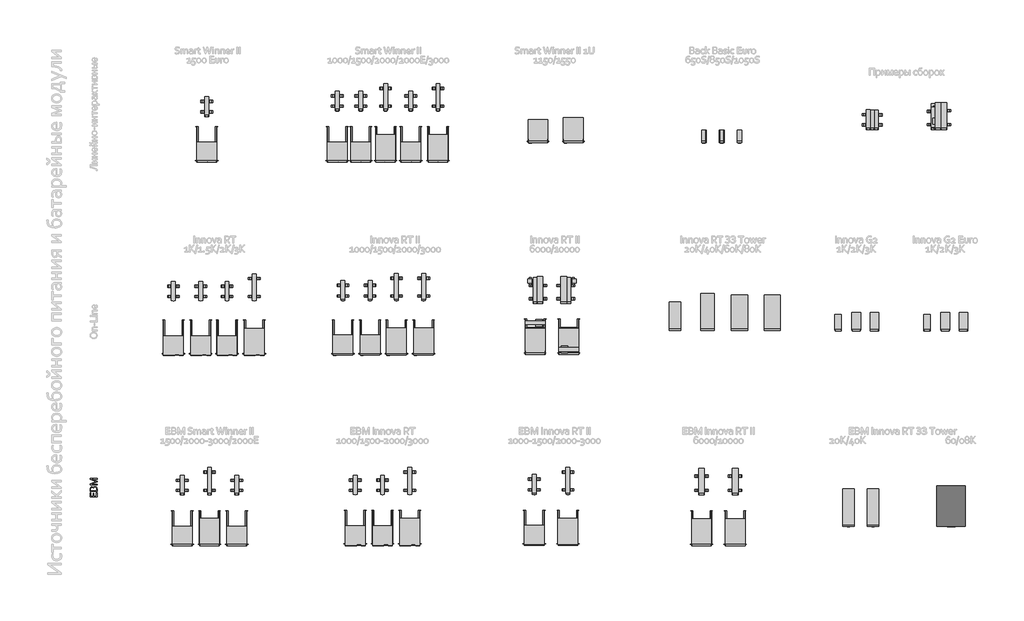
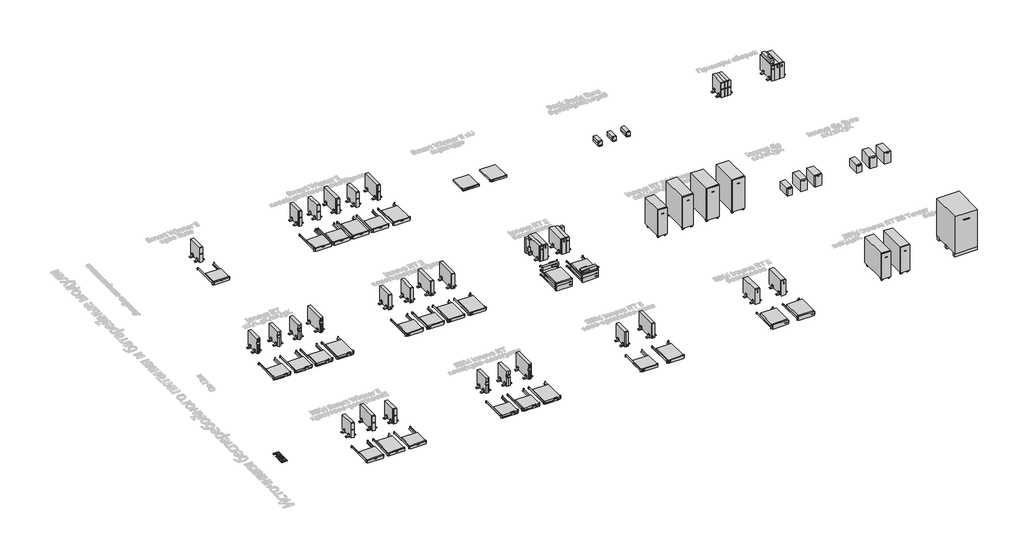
# One storey, part 1 of 14: 104 proxies.
"""IFC4 building model written with IfcOpenShell, lengths in millimetres."""

from ifc_helpers import new_model, si_unit, origin, origin_with_axes, place, context, project, spatial, polyline, outline, extrude, transform, mapped, element, save
from components import electrical_equipment_e0649b80, electrical_equipment_31c24b1d, electrical_equipment_5c134813, electrical_equipment_8a4f9bc7, electrical_equipment_ef5bf3b2, electrical_equipment_7b7a9afe, electrical_equipment_1216eed7, electrical_equipment_90de4895, electrical_equipment_7cab53b0, electrical_equipment_fa8cc59b, electrical_equipment_69b62ba1, electrical_equipment_9dc947d1, electrical_equipment_16744219, electrical_equipment_cfbb87c9, electrical_equipment_9298a4e4, electrical_equipment_7cbba243, electrical_equipment_558c85cb, electrical_equipment_400f7965, electrical_equipment_d4b9a717, electrical_equipment_90e6ebf0, electrical_equipment_517d518b, electrical_equipment_acadec03, electrical_equipment_45f5dc8f, electrical_equipment_fab1fcb4, electrical_equipment_f85adaec, electrical_equipment_f777224a, electrical_equipment_d9fb5ba6, electrical_equipment_9c128fde, electrical_equipment_19148581, electrical_equipment_a6e1776d, electrical_equipment_ea3c379c, electrical_equipment_cd2cad51, electrical_equipment_1a3260f8, electrical_equipment_5258313d, electrical_equipment_ac7b17f3, electrical_equipment_c6e77d47, electrical_equipment_1c29d455, electrical_equipment_fd047484, electrical_equipment_a63d0ca0, electrical_equipment_284e5c05, electrical_equipment_f061e295, electrical_equipment_f96a9f60, electrical_equipment_e6eb0e22, electrical_equipment_5d2fe02d, electrical_equipment_0e66a687, electrical_equipment_6785ab85, electrical_equipment_16f8b6a5, electrical_equipment_57e4d7b0

model = new_model("IFC4")

# Units and contexts
model_context = context("Model", 3, world=origin())
ifc_project = project(units=[si_unit("LENGTHUNIT", "METRE", prefix="MILLI")], contexts=[model_context])

# Site, building, storey
site = spatial("IfcSite", under=ifc_project)
building = spatial("IfcBuilding", under=site)
storey = spatial("IfcBuildingStorey", under=building, Name="Этаж 01", Elevation=0.0)

# Proxies
placement = place(None, origin())
element("IfcBuildingElementProxy", 1, Name="150 мм Corbel", ObjectType="150 мм Corbel", at=placement, inside=storey, context=model_context, shape_type="SweptSolid", body=[
    extrude(outline(polyline([(2510.3948077, -8927.0837924), (2510.3948077, -8850.1706353), (2527.1949512, -8850.1706353), (2527.1949512, -8946.6839599), (2375.9936594, -8946.6839599), (2375.9936594, -8854.3269208), (2392.7938029, -8854.3269208), (2392.7938029, -8927.0837924), (2440.3942096, -8927.0837924), (2440.3942096, -8862.3769896), (2457.1943532, -8862.3769896), (2457.1943532, -8927.0837924), (2510.3948077, -8927.0837924)])), origin_with_axes(), (0.0, 0.0, 1.0), 20.0),
    extrude(outline(polyline([(2447.8317732, -8749.3697741), (2451.8349324, -8736.8790424), (2458.8568674, -8727.472712), (2469.0288293, -8721.741413), (2482.4820692, -8719.8820222), (2493.7477905, -8721.39141), (2505.1885132, -8726.422703), (2515.4261007, -8735.6540319), (2523.0824161, -8749.8072778), (2526.2761934, -8764.2011508), (2527.1949512, -8783.188813), (2527.1949512, -8820.6828834), (2375.9936594, -8820.6828834), (2375.9936594, -8784.238822), (2376.1686609, -8775.1606194), (2376.6717902, -8767.6355552), (2377.5030473, -8761.2480006), (2378.6624322, -8755.6698279), (2383.8687267, -8743.2009714), (2391.7219188, -8733.6633899), (2402.0907574, -8727.6039631), (2414.7127402, -8725.48207), (2425.1909547, -8726.772706), (2434.4441588, -8730.9289915), (2442.0348487, -8738.3228047), (2447.8317732, -8749.3697741)]), holes=[polyline([(2440.3942096, -8773.9574842), (2439.8910803, -8764.923032), (2438.4254428, -8758.0323481), (2429.8284944, -8746.0447457), (2416.0252514, -8742.2822135), (2402.7032626, -8746.2197472), (2394.9813216, -8758.5573526), (2393.2969322, -8768.1824348), (2392.7938029, -8781.0887951), (2392.7938029, -8801.0827159), (2440.3942096, -8801.0827159), (2440.3942096, -8773.9574842)]), polyline([(2457.1943532, -8801.0827159), (2510.3948077, -8801.0827159), (2510.3948077, -8779.7762839), (2509.6510514, -8765.6886635), (2507.2885312, -8754.6635693), (2502.8916186, -8746.2197472), (2496.9415678, -8740.6415745), (2490.0290087, -8737.6009235), (2482.6133204, -8736.6821657), (2474.4101253, -8737.6665491), (2467.5413166, -8740.8603264), (2462.2256462, -8746.7010013), (2458.6818659, -8755.7135783), (2457.5443562, -8763.1511418), (2457.1943532, -8773.4762301), (2457.1943532, -8801.0827159)])]), origin_with_axes(), (0.0, 0.0, 1.0), 20.0),
    extrude(outline(polyline([(2527.1949512, -8603.637279), (2527.1949512, -8612.1248515), (2436.8941797, -8649.1376677), (2396.3375832, -8664.5377993), (2454.0880766, -8663.8815437), (2527.1949512, -8663.8815437), (2527.1949512, -8683.4817112), (2375.9936594, -8683.4817112), (2375.9936594, -8657.012735), (2461.5256402, -8621.5749322), (2496.9196926, -8608.1873179), (2461.5256402, -8594.2309486), (2375.9936594, -8558.7493955), (2375.9936594, -8532.2804193), (2527.1949512, -8532.2804193), (2527.1949512, -8551.8805868), (2454.0880766, -8551.8805868), (2396.3375832, -8550.3055733), (2436.8941797, -8566.6244627), (2527.1949512, -8603.637279)])), origin_with_axes(), (0.0, 0.0, 1.0), 20.0),
])
electrical_equipment_shape = electrical_equipment_e0649b80(model_context)
element("IfcBuildingElementProxy", 2, Name="IPPON_ИБП_Smart Winner II Euro_1500ВА : Smart Winner II Euro 1500 ВА", ObjectType="IPPON_ИБП_Smart Winner II Euro_1500ВА : Smart Winner II Euro 1500 ВА", at=placement, inside=storey, context=model_context, shape_type="MappedRepresentation", body=[
    mapped(electrical_equipment_shape, transform((4944.0994169, -556.6244001, 0.0), x_axis=(1.0, 0.0, 0.0), y_axis=(0.0, 1.0, 0.0), z_axis=(0.0, 0.0, 1.0))),
])
element("IfcBuildingElementProxy", 3, Name="IPPON_ИБП_Smart Winner II_1000_1500_2000_2000E_3000ВА : Smart Winner II 1500 ВА", ObjectType="IPPON_ИБП_Smart Winner II_1000_1500_2000_2000E_3000ВА : Smart Winner II 1500 ВА", at=placement, inside=storey, context=model_context, shape_type="MappedRepresentation", body=[
    mapped(electrical_equipment_shape, transform((8339.0343388, -431.8742501, 0.0), x_axis=(1.0, 0.0, 0.0), y_axis=(0.0, 1.0, 0.0), z_axis=(0.0, 0.0, 1.0))),
])
element("IfcBuildingElementProxy", 4, Name="IPPON_ИБП_Smart Winner II_1000_1500_2000_2000E_3000ВА : Smart Winner II 1000 ВА", ObjectType="IPPON_ИБП_Smart Winner II_1000_1500_2000_2000E_3000ВА : Smart Winner II 1000 ВА", at=placement, inside=storey, context=model_context, shape_type="MappedRepresentation", body=[
    mapped(electrical_equipment_shape, transform((7819.0343388, -431.8742501, 0.0), x_axis=(1.0, 0.0, 0.0), y_axis=(0.0, 1.0, 0.0), z_axis=(0.0, 0.0, 1.0))),
])
electrical_equipment_2_shape = electrical_equipment_31c24b1d(model_context)
element("IfcBuildingElementProxy", 5, Name="IPPON_ИБП_Smart Winner II_1000_1500_2000_2000E_3000ВА : Smart Winner II 2000 ВА", ObjectType="IPPON_ИБП_Smart Winner II_1000_1500_2000_2000E_3000ВА : Smart Winner II 2000 ВА", at=placement, inside=storey, context=model_context, shape_type="MappedRepresentation", body=[
    mapped(electrical_equipment_2_shape, transform((8884.0343388, -431.8742501, 0.0), x_axis=(1.0, 0.0, 0.0), y_axis=(0.0, 1.0, 0.0), z_axis=(0.0, 0.0, 1.0))),
])
element("IfcBuildingElementProxy", 6, Name="IPPON_ИБП_Smart Winner II_1000_1500_2000_2000E_3000ВА : Smart Winner II 2000 ВА (E)", ObjectType="IPPON_ИБП_Smart Winner II_1000_1500_2000_2000E_3000ВА : Smart Winner II 2000 ВА (E)", at=placement, inside=storey, context=model_context, shape_type="MappedRepresentation", body=[
    mapped(electrical_equipment_shape, transform((9439.0343388, -431.8742501, 0.0), x_axis=(1.0, 0.0, 0.0), y_axis=(0.0, 1.0, 0.0), z_axis=(0.0, 0.0, 1.0))),
])
element("IfcBuildingElementProxy", 7, Name="IPPON_ИБП_Smart Winner II_1000_1500_2000_2000E_3000ВА : Smart Winner II 3000 ВА", ObjectType="IPPON_ИБП_Smart Winner II_1000_1500_2000_2000E_3000ВА : Smart Winner II 3000 ВА", at=placement, inside=storey, context=model_context, shape_type="MappedRepresentation", body=[
    mapped(electrical_equipment_2_shape, transform((10039.0343388, -431.8742501, 0.0), x_axis=(1.0, 0.0, 0.0), y_axis=(0.0, 1.0, 0.0), z_axis=(0.0, 0.0, 1.0))),
])
electrical_equipment_3_shape = electrical_equipment_5c134813(model_context)
element("IfcBuildingElementProxy", 8, Name="Вл_Монтажный комплект : Вл_Монтажный комплект", ObjectType="Вл_Монтажный комплект : Вл_Монтажный комплект", at=placement, inside=storey, context=model_context, shape_type="MappedRepresentation", body=[
    mapped(electrical_equipment_3_shape, transform((4944.0994169, -1523.6244001, 0.0), x_axis=(1.0, 0.0, 0.0), y_axis=(0.0, 1.0, 0.0), z_axis=(0.0, 0.0, 1.0))),
])
element("IfcBuildingElementProxy", 9, Name="Вл_Монтажный комплект : Вл_Монтажный комплект", ObjectType="Вл_Монтажный комплект : Вл_Монтажный комплект", at=placement, inside=storey, context=model_context, shape_type="MappedRepresentation", body=[
    mapped(electrical_equipment_3_shape, transform((8339.0343388, -1523.8742501, 0.0), x_axis=(1.0, 0.0, 0.0), y_axis=(0.0, 1.0, 0.0), z_axis=(0.0, 0.0, 1.0))),
])
element("IfcBuildingElementProxy", 10, Name="Вл_Монтажный комплект : Вл_Монтажный комплект", ObjectType="Вл_Монтажный комплект : Вл_Монтажный комплект", at=placement, inside=storey, context=model_context, shape_type="MappedRepresentation", body=[
    mapped(electrical_equipment_3_shape, transform((7819.0343388, -1523.8742501, 0.0), x_axis=(1.0, 0.0, 0.0), y_axis=(0.0, 1.0, 0.0), z_axis=(0.0, 0.0, 1.0))),
])
element("IfcBuildingElementProxy", 11, Name="Вл_Монтажный комплект : Вл_Монтажный комплект", ObjectType="Вл_Монтажный комплект : Вл_Монтажный комплект", at=placement, inside=storey, context=model_context, shape_type="MappedRepresentation", body=[
    mapped(electrical_equipment_3_shape, transform((8884.0343388, -1523.8742501, 0.0), x_axis=(1.0, 0.0, 0.0), y_axis=(0.0, 1.0, 0.0), z_axis=(0.0, 0.0, 1.0))),
])
element("IfcBuildingElementProxy", 12, Name="Вл_Монтажный комплект : Вл_Монтажный комплект", ObjectType="Вл_Монтажный комплект : Вл_Монтажный комплект", at=placement, inside=storey, context=model_context, shape_type="MappedRepresentation", body=[
    mapped(electrical_equipment_3_shape, transform((9439.0343388, -1523.8742501, 0.0), x_axis=(1.0, 0.0, 0.0), y_axis=(0.0, 1.0, 0.0), z_axis=(0.0, 0.0, 1.0))),
])
element("IfcBuildingElementProxy", 13, Name="Вл_Монтажный комплект : Вл_Монтажный комплект", ObjectType="Вл_Монтажный комплект : Вл_Монтажный комплект", at=placement, inside=storey, context=model_context, shape_type="MappedRepresentation", body=[
    mapped(electrical_equipment_3_shape, transform((10039.0343388, -1523.8742501, 0.0), x_axis=(1.0, 0.0, 0.0), y_axis=(0.0, 1.0, 0.0), z_axis=(0.0, 0.0, 1.0))),
])
element("IfcBuildingElementProxy", 14, Name="Вл_Монтажный комплект : Вл_Монтажный комплект", ObjectType="Вл_Монтажный комплект : Вл_Монтажный комплект", at=placement, inside=storey, context=model_context, shape_type="MappedRepresentation", body=[
    mapped(electrical_equipment_3_shape, transform((5004.9005059, -9990.0779342, 0.0), x_axis=(1.0, 0.0, 0.0), y_axis=(0.0, 1.0, 0.0), z_axis=(0.0, 0.0, 1.0))),
])
element("IfcBuildingElementProxy", 15, Name="Вл_Монтажный комплект : Вл_Монтажный комплект", ObjectType="Вл_Монтажный комплект : Вл_Монтажный комплект", at=placement, inside=storey, context=model_context, shape_type="MappedRepresentation", body=[
    mapped(electrical_equipment_3_shape, transform((5604.9005059, -9990.0779342, 0.0), x_axis=(1.0, 0.0, 0.0), y_axis=(0.0, 1.0, 0.0), z_axis=(0.0, 0.0, 1.0))),
])
element("IfcBuildingElementProxy", 16, Name="Вл_Монтажный комплект : Вл_Монтажный комплект", ObjectType="Вл_Монтажный комплект : Вл_Монтажный комплект", at=placement, inside=storey, context=model_context, shape_type="MappedRepresentation", body=[
    mapped(electrical_equipment_3_shape, transform((4404.9005059, -9990.0779342, 0.0), x_axis=(1.0, 0.0, 0.0), y_axis=(0.0, 1.0, 0.0), z_axis=(0.0, 0.0, 1.0))),
])
element("IfcBuildingElementProxy", 17, Name="Вл_Монтажный комплект : Вл_Монтажный комплект", ObjectType="Вл_Монтажный комплект : Вл_Монтажный комплект", at=placement, inside=storey, context=model_context, shape_type="MappedRepresentation", body=[
    mapped(electrical_equipment_3_shape, transform((4210.1294737, -5785.6427716, 0.0), x_axis=(1.0, 0.0, 0.0), y_axis=(0.0, 1.0, 0.0), z_axis=(0.0, 0.0, 1.0))),
])
element("IfcBuildingElementProxy", 18, Name="Вл_Монтажный комплект : Вл_Монтажный комплект", ObjectType="Вл_Монтажный комплект : Вл_Монтажный комплект", at=placement, inside=storey, context=model_context, shape_type="MappedRepresentation", body=[
    mapped(electrical_equipment_3_shape, transform((4810.1294737, -5785.6427716, 0.0), x_axis=(1.0, 0.0, 0.0), y_axis=(0.0, 1.0, 0.0), z_axis=(0.0, 0.0, 1.0))),
])
element("IfcBuildingElementProxy", 19, Name="Вл_Монтажный комплект : Вл_Монтажный комплект", ObjectType="Вл_Монтажный комплект : Вл_Монтажный комплект", at=placement, inside=storey, context=model_context, shape_type="MappedRepresentation", body=[
    mapped(electrical_equipment_3_shape, transform((5390.1294737, -5785.6427716, 0.0), x_axis=(1.0, 0.0, 0.0), y_axis=(0.0, 1.0, 0.0), z_axis=(0.0, 0.0, 1.0))),
])
element("IfcBuildingElementProxy", 20, Name="Вл_Монтажный комплект : Вл_Монтажный комплект", ObjectType="Вл_Монтажный комплект : Вл_Монтажный комплект", at=placement, inside=storey, context=model_context, shape_type="MappedRepresentation", body=[
    mapped(electrical_equipment_3_shape, transform((5990.1294737, -5785.6427716, 0.0), x_axis=(1.0, 0.0, 0.0), y_axis=(0.0, 1.0, 0.0), z_axis=(0.0, 0.0, 1.0))),
])
element("IfcBuildingElementProxy", 21, Name="Вл_Монтажный комплект : Вл_Монтажный комплект", ObjectType="Вл_Монтажный комплект : Вл_Монтажный комплект", at=placement, inside=storey, context=model_context, shape_type="MappedRepresentation", body=[
    mapped(electrical_equipment_3_shape, transform((8216.3272846, -9980.0779342, 0.0), x_axis=(1.0, 0.0, 0.0), y_axis=(0.0, 1.0, 0.0), z_axis=(0.0, 0.0, 1.0))),
])
element("IfcBuildingElementProxy", 22, Name="Вл_Монтажный комплект : Вл_Монтажный комплект", ObjectType="Вл_Монтажный комплект : Вл_Монтажный комплект", at=placement, inside=storey, context=model_context, shape_type="MappedRepresentation", body=[
    mapped(electrical_equipment_3_shape, transform((8816.3272846, -9980.0779342, 0.0), x_axis=(1.0, 0.0, 0.0), y_axis=(0.0, 1.0, 0.0), z_axis=(0.0, 0.0, 1.0))),
])
element("IfcBuildingElementProxy", 23, Name="Вл_Монтажный комплект : Вл_Монтажный комплект", ObjectType="Вл_Монтажный комплект : Вл_Монтажный комплект", at=placement, inside=storey, context=model_context, shape_type="MappedRepresentation", body=[
    mapped(electrical_equipment_3_shape, transform((9416.3272846, -9980.0779342, 0.0), x_axis=(1.0, 0.0, 0.0), y_axis=(0.0, 1.0, 0.0), z_axis=(0.0, 0.0, 1.0))),
])
element("IfcBuildingElementProxy", 24, Name="Вл_Монтажный комплект : Вл_Монтажный комплект", ObjectType="Вл_Монтажный комплект : Вл_Монтажный комплект", at=placement, inside=storey, context=model_context, shape_type="MappedRepresentation", body=[
    mapped(electrical_equipment_3_shape, transform((7943.4672149, -5785.6427716, 0.0), x_axis=(1.0, 0.0, 0.0), y_axis=(0.0, 1.0, 0.0), z_axis=(0.0, 0.0, 1.0))),
])
element("IfcBuildingElementProxy", 25, Name="Вл_Монтажный комплект : Вл_Монтажный комплект", ObjectType="Вл_Монтажный комплект : Вл_Монтажный комплект", at=placement, inside=storey, context=model_context, shape_type="MappedRepresentation", body=[
    mapped(electrical_equipment_3_shape, transform((8543.4672149, -5785.6427716, 0.0), x_axis=(1.0, 0.0, 0.0), y_axis=(0.0, 1.0, 0.0), z_axis=(0.0, 0.0, 1.0))),
])
element("IfcBuildingElementProxy", 26, Name="Вл_Монтажный комплект : Вл_Монтажный комплект", ObjectType="Вл_Монтажный комплект : Вл_Монтажный комплект", at=placement, inside=storey, context=model_context, shape_type="MappedRepresentation", body=[
    mapped(electrical_equipment_3_shape, transform((9123.4672149, -5785.6427716, 0.0), x_axis=(1.0, 0.0, 0.0), y_axis=(0.0, 1.0, 0.0), z_axis=(0.0, 0.0, 1.0))),
])
element("IfcBuildingElementProxy", 27, Name="Вл_Монтажный комплект : Вл_Монтажный комплект", ObjectType="Вл_Монтажный комплект : Вл_Монтажный комплект", at=placement, inside=storey, context=model_context, shape_type="MappedRepresentation", body=[
    mapped(electrical_equipment_3_shape, transform((9723.4672149, -5785.6427716, 0.0), x_axis=(1.0, 0.0, 0.0), y_axis=(0.0, 1.0, 0.0), z_axis=(0.0, 0.0, 1.0))),
])
element("IfcBuildingElementProxy", 28, Name="Вл_Монтажный комплект : Вл_Монтажный комплект", ObjectType="Вл_Монтажный комплект : Вл_Монтажный комплект", at=placement, inside=storey, context=model_context, shape_type="MappedRepresentation", body=[
    mapped(electrical_equipment_3_shape, transform((12161.3957799, -9980.0779342, 0.0), x_axis=(1.0, 0.0, 0.0), y_axis=(0.0, 1.0, 0.0), z_axis=(0.0, 0.0, 1.0))),
])
element("IfcBuildingElementProxy", 29, Name="Вл_Монтажный комплект : Вл_Монтажный комплект", ObjectType="Вл_Монтажный комплект : Вл_Монтажный комплект", at=placement, inside=storey, context=model_context, shape_type="MappedRepresentation", body=[
    mapped(electrical_equipment_3_shape, transform((12901.3957799, -9980.0779342, 0.0), x_axis=(1.0, 0.0, 0.0), y_axis=(0.0, 1.0, 0.0), z_axis=(0.0, 0.0, 1.0))),
])
electrical_equipment_4_shape = electrical_equipment_8a4f9bc7(model_context)
element("IfcBuildingElementProxy", 30, Name="IPPON_EBM_Smart Winner II_1500_2000_2000E_3000ВА : EBM Smart Winner II 1500 ВА", ObjectType="IPPON_EBM_Smart Winner II_1500_2000_2000E_3000ВА : EBM Smart Winner II 1500 ВА", at=placement, inside=storey, context=model_context, shape_type="MappedRepresentation", body=[
    mapped(electrical_equipment_4_shape, transform((4404.9005059, -8903.0779342, 0.0), x_axis=(1.0, 0.0, 0.0), y_axis=(0.0, 1.0, 0.0), z_axis=(0.0, 0.0, 1.0))),
])
electrical_equipment_5_shape = electrical_equipment_ef5bf3b2(model_context)
element("IfcBuildingElementProxy", 31, Name="IPPON_EBM_Smart Winner II_1500_2000_2000E_3000ВА : EBM Smart Winner II 2000/3000 ВА", ObjectType="IPPON_EBM_Smart Winner II_1500_2000_2000E_3000ВА : EBM Smart Winner II 2000/3000 ВА", at=placement, inside=storey, context=model_context, shape_type="MappedRepresentation", body=[
    mapped(electrical_equipment_5_shape, transform((5004.9005059, -8903.0779342, 0.0), x_axis=(1.0, 0.0, 0.0), y_axis=(0.0, 1.0, 0.0), z_axis=(0.0, 0.0, 1.0))),
])
element("IfcBuildingElementProxy", 32, Name="IPPON_EBM_Smart Winner II_1500_2000_2000E_3000ВА : EBM Smart Winner II 2000 ВА (E)", ObjectType="IPPON_EBM_Smart Winner II_1500_2000_2000E_3000ВА : EBM Smart Winner II 2000 ВА (E)", at=placement, inside=storey, context=model_context, shape_type="MappedRepresentation", body=[
    mapped(electrical_equipment_4_shape, transform((5604.9005059, -8903.0779342, 0.0), x_axis=(1.0, 0.0, 0.0), y_axis=(0.0, 1.0, 0.0), z_axis=(0.0, 0.0, 1.0))),
])
electrical_equipment_6_shape = electrical_equipment_7b7a9afe(model_context)
element("IfcBuildingElementProxy", 33, Name="IPPON_ИБП_Smart Winner II_1000_1500_2000_2000E_3000ВА : Smart Winner II 1500 ВА", ObjectType="IPPON_ИБП_Smart Winner II_1000_1500_2000_2000E_3000ВА : Smart Winner II 1500 ВА", at=placement, inside=storey, context=model_context, shape_type="MappedRepresentation", body=[
    mapped(electrical_equipment_6_shape, transform((8339.0343388, -1556.8742501, 0.0), x_axis=(1.0, 0.0, 0.0), y_axis=(0.0, 1.0, 0.0), z_axis=(0.0, 0.0, 1.0))),
])
element("IfcBuildingElementProxy", 34, Name="IPPON_ИБП_Smart Winner II_1000_1500_2000_2000E_3000ВА : Smart Winner II 1000 ВА", ObjectType="IPPON_ИБП_Smart Winner II_1000_1500_2000_2000E_3000ВА : Smart Winner II 1000 ВА", at=placement, inside=storey, context=model_context, shape_type="MappedRepresentation", body=[
    mapped(electrical_equipment_6_shape, transform((7819.0343388, -1556.8742501, 0.0), x_axis=(1.0, 0.0, 0.0), y_axis=(0.0, 1.0, 0.0), z_axis=(0.0, 0.0, 1.0))),
])
electrical_equipment_7_shape = electrical_equipment_1216eed7(model_context)
element("IfcBuildingElementProxy", 35, Name="IPPON_ИБП_Smart Winner II_1000_1500_2000_2000E_3000ВА : Smart Winner II 2000 ВА", ObjectType="IPPON_ИБП_Smart Winner II_1000_1500_2000_2000E_3000ВА : Smart Winner II 2000 ВА", at=placement, inside=storey, context=model_context, shape_type="MappedRepresentation", body=[
    mapped(electrical_equipment_7_shape, transform((8884.0343388, -1556.8742501, 0.0), x_axis=(1.0, 0.0, 0.0), y_axis=(0.0, 1.0, 0.0), z_axis=(0.0, 0.0, 1.0))),
])
element("IfcBuildingElementProxy", 36, Name="IPPON_ИБП_Smart Winner II_1000_1500_2000_2000E_3000ВА : Smart Winner II 2000 ВА (E)", ObjectType="IPPON_ИБП_Smart Winner II_1000_1500_2000_2000E_3000ВА : Smart Winner II 2000 ВА (E)", at=placement, inside=storey, context=model_context, shape_type="MappedRepresentation", body=[
    mapped(electrical_equipment_6_shape, transform((9439.0343388, -1556.8742501, 0.0), x_axis=(1.0, 0.0, 0.0), y_axis=(0.0, 1.0, 0.0), z_axis=(0.0, 0.0, 1.0))),
])
element("IfcBuildingElementProxy", 37, Name="IPPON_ИБП_Smart Winner II_1000_1500_2000_2000E_3000ВА : Smart Winner II 3000 ВА", ObjectType="IPPON_ИБП_Smart Winner II_1000_1500_2000_2000E_3000ВА : Smart Winner II 3000 ВА", at=placement, inside=storey, context=model_context, shape_type="MappedRepresentation", body=[
    mapped(electrical_equipment_7_shape, transform((10039.0343388, -1556.8742501, 0.0), x_axis=(1.0, 0.0, 0.0), y_axis=(0.0, 1.0, 0.0), z_axis=(0.0, 0.0, 1.0))),
])
electrical_equipment_8_shape = electrical_equipment_90de4895(model_context)
element("IfcBuildingElementProxy", 38, Name="IPPON_EBM_Smart Winner II_1500_2000_2000E_3000ВА : EBM Smart Winner II 2000/3000 ВА", ObjectType="IPPON_EBM_Smart Winner II_1500_2000_2000E_3000ВА : EBM Smart Winner II 2000/3000 ВА", at=placement, inside=storey, context=model_context, shape_type="MappedRepresentation", body=[
    mapped(electrical_equipment_8_shape, transform((5004.9005059, -10023.0779342, 0.0), x_axis=(1.0, 0.0, 0.0), y_axis=(0.0, 1.0, 0.0), z_axis=(0.0, 0.0, 1.0))),
])
electrical_equipment_9_shape = electrical_equipment_7cab53b0(model_context)
element("IfcBuildingElementProxy", 39, Name="IPPON_EBM_Smart Winner II_1500_2000_2000E_3000ВА : EBM Smart Winner II 2000 ВА (E)", ObjectType="IPPON_EBM_Smart Winner II_1500_2000_2000E_3000ВА : EBM Smart Winner II 2000 ВА (E)", at=placement, inside=storey, context=model_context, shape_type="MappedRepresentation", body=[
    mapped(electrical_equipment_9_shape, transform((5604.9005059, -10023.0779342, 0.0), x_axis=(1.0, 0.0, 0.0), y_axis=(0.0, 1.0, 0.0), z_axis=(0.0, 0.0, 1.0))),
])
element("IfcBuildingElementProxy", 40, Name="IPPON_EBM_Smart Winner II_1500_2000_2000E_3000ВА : EBM Smart Winner II 1500 ВА", ObjectType="IPPON_EBM_Smart Winner II_1500_2000_2000E_3000ВА : EBM Smart Winner II 1500 ВА", at=placement, inside=storey, context=model_context, shape_type="MappedRepresentation", body=[
    mapped(electrical_equipment_9_shape, transform((4404.9005059, -10023.0779342, 0.0), x_axis=(1.0, 0.0, 0.0), y_axis=(0.0, 1.0, 0.0), z_axis=(0.0, 0.0, 1.0))),
])
electrical_equipment_10_shape = electrical_equipment_fa8cc59b(model_context)
element("IfcBuildingElementProxy", 41, Name="IPPON_ИБП_Smart Winner II 1U_1150_1550ВА : Smart Winner II 1150 ВА (1U)", ObjectType="IPPON_ИБП_Smart Winner II 1U_1150_1550ВА : Smart Winner II 1150 ВА (1U)", at=placement, inside=storey, context=model_context, shape_type="MappedRepresentation", body=[
    mapped(electrical_equipment_10_shape, transform((12243.1274779, -1136.8742501, 0.0), x_axis=(1.0, 0.0, 0.0), y_axis=(0.0, 1.0, 0.0), z_axis=(0.0, 0.0, 1.0))),
])
electrical_equipment_11_shape = electrical_equipment_69b62ba1(model_context)
element("IfcBuildingElementProxy", 42, Name="Вл_Монтажный комплект_43мм : Вл_Монтажный комплект_43мм", ObjectType="Вл_Монтажный комплект_43мм : Вл_Монтажный комплект_43мм", at=placement, inside=storey, context=model_context, shape_type="MappedRepresentation", body=[
    mapped(electrical_equipment_11_shape, transform((15846.7111919, -9990.0779342, 0.0), x_axis=(1.0, 0.0, 0.0), y_axis=(0.0, 1.0, 0.0), z_axis=(0.0, 0.0, 1.0))),
])
element("IfcBuildingElementProxy", 43, Name="Вл_Монтажный комплект_43мм : Вл_Монтажный комплект_43мм", ObjectType="Вл_Монтажный комплект_43мм : Вл_Монтажный комплект_43мм", at=placement, inside=storey, context=model_context, shape_type="MappedRepresentation", body=[
    mapped(electrical_equipment_11_shape, transform((16586.7111919, -9990.0779342, 0.0), x_axis=(1.0, 0.0, 0.0), y_axis=(0.0, 1.0, 0.0), z_axis=(0.0, 0.0, 1.0))),
])
electrical_equipment_12_shape = electrical_equipment_9dc947d1(model_context)
element("IfcBuildingElementProxy", 44, Name="IPPON_ИБП_Innova RT II_60000_10000ВА_Вертикальный : Innova TR II 6000 ВА", ObjectType="IPPON_ИБП_Innova RT II_60000_10000ВА_Вертикальный : Innova TR II 6000 ВА", at=placement, inside=storey, context=model_context, shape_type="MappedRepresentation", body=[
    mapped(electrical_equipment_12_shape, transform((12179.2943129, -4680.0691348, 0.0), x_axis=(1.0, 0.0, 0.0), y_axis=(0.0, 1.0, 0.0), z_axis=(0.0, 0.0, 1.0))),
])
element("IfcBuildingElementProxy", 45, Name="IPPON_ИБП_Smart Winner II Euro_1500ВА : Smart Winner II Euro 1500 ВА", ObjectType="IPPON_ИБП_Smart Winner II Euro_1500ВА : Smart Winner II Euro 1500 ВА", at=placement, inside=storey, context=model_context, shape_type="MappedRepresentation", body=[
    mapped(electrical_equipment_6_shape, transform((4944.0994169, -1556.6244001, 0.0), x_axis=(1.0, 0.0, 0.0), y_axis=(0.0, 1.0, 0.0), z_axis=(0.0, 0.0, 1.0))),
])
electrical_equipment_13_shape = electrical_equipment_16744219(model_context)
element("IfcBuildingElementProxy", 46, Name="IPPON_ИБП_Innova RT II_60000_10000ВА_Горизонтальный : Innova RT II 6000 ВА", ObjectType="IPPON_ИБП_Innova RT II_60000_10000ВА_Горизонтальный : Innova RT II 6000 ВА", at=placement, inside=storey, context=model_context, shape_type="MappedRepresentation", body=[
    mapped(electrical_equipment_13_shape, transform((12179.2943129, -5805.2134969, 0.0), x_axis=(1.0, 0.0, 0.0), y_axis=(0.0, 1.0, 0.0), z_axis=(0.0, 0.0, 1.0))),
])
electrical_equipment_14_shape = electrical_equipment_cfbb87c9(model_context)
element("IfcBuildingElementProxy", 47, Name="Вл_Монтажный комплект_43мм : Вл_Монтажный комплект_43мм", ObjectType="Вл_Монтажный комплект_43мм : Вл_Монтажный комплект_43мм", at=placement, inside=storey, context=model_context, shape_type="MappedRepresentation", body=[
    mapped(electrical_equipment_14_shape, transform((12179.2943129, -5772.2134969, 0.0), x_axis=(1.0, 0.0, 0.0), y_axis=(0.0, 1.0, 0.0), z_axis=(0.0, 0.0, 1.0))),
])
element("IfcBuildingElementProxy", 48, Name="Вл_Монтажный комплект_43мм : Вл_Монтажный комплект_43мм", ObjectType="Вл_Монтажный комплект_43мм : Вл_Монтажный комплект_43мм", at=placement, inside=storey, context=model_context, shape_type="MappedRepresentation", body=[
    mapped(electrical_equipment_14_shape, transform((12179.2943129, -5772.2134969, -129.5), x_axis=(1.0, 0.0, 0.0), y_axis=(0.0, 1.0, 0.0), z_axis=(0.0, 0.0, 1.0))),
])
element("IfcBuildingElementProxy", 49, Name="Вл_Монтажный комплект_43мм : Вл_Монтажный комплект_43мм", ObjectType="Вл_Монтажный комплект_43мм : Вл_Монтажный комплект_43мм", at=placement, inside=storey, context=model_context, shape_type="MappedRepresentation", body=[
    mapped(electrical_equipment_14_shape, transform((12919.2943129, -5772.2134969, 0.0), x_axis=(1.0, 0.0, 0.0), y_axis=(0.0, 1.0, 0.0), z_axis=(0.0, 0.0, 1.0))),
])
element("IfcBuildingElementProxy", 50, Name="Вл_Монтажный комплект_43мм : Вл_Монтажный комплект_43мм", ObjectType="Вл_Монтажный комплект_43мм : Вл_Монтажный комплект_43мм", at=placement, inside=storey, context=model_context, shape_type="MappedRepresentation", body=[
    mapped(electrical_equipment_14_shape, transform((12919.2943129, -5772.2134969, -129.5), x_axis=(1.0, 0.0, 0.0), y_axis=(0.0, 1.0, 0.0), z_axis=(0.0, 0.0, 1.0))),
])
electrical_equipment_15_shape = electrical_equipment_9298a4e4(model_context)
element("IfcBuildingElementProxy", 51, Name="IPPON_EBM_Innova RT II_6000_10000ВА : Innova RT II 6000 ВА", ObjectType="IPPON_EBM_Innova RT II_6000_10000ВА : Innova RT II 6000 ВА", at=placement, inside=storey, context=model_context, shape_type="MappedRepresentation", body=[
    mapped(electrical_equipment_15_shape, transform((15846.7111919, -8903.0779342, 0.0), x_axis=(1.0, 0.0, 0.0), y_axis=(0.0, 1.0, 0.0), z_axis=(0.0, 0.0, 1.0))),
])
element("IfcBuildingElementProxy", 52, Name="IPPON_EBM_Innova RT II_6000_10000ВА : Innova RT II 6000 ВА", ObjectType="IPPON_EBM_Innova RT II_6000_10000ВА : Innova RT II 6000 ВА", at=placement, inside=storey, context=model_context, shape_type="MappedRepresentation", body=[
    mapped(electrical_equipment_15_shape, transform((21185.660897, -842.0417113, 0.0), x_axis=(1.0, 0.0, 0.0), y_axis=(0.0, 1.0, 0.0), z_axis=(0.0, 0.0, 1.0))),
])
element("IfcBuildingElementProxy", 53, Name="IPPON_EBM_Innova RT II_6000_10000ВА : Innova RT II 10000 ВА", ObjectType="IPPON_EBM_Innova RT II_6000_10000ВА : Innova RT II 10000 ВА", at=placement, inside=storey, context=model_context, shape_type="MappedRepresentation", body=[
    mapped(electrical_equipment_15_shape, transform((16586.7111919, -8903.0779342, 0.0), x_axis=(1.0, 0.0, 0.0), y_axis=(0.0, 1.0, 0.0), z_axis=(0.0, 0.0, 1.0))),
])
electrical_equipment_16_shape = electrical_equipment_7cbba243(model_context)
element("IfcBuildingElementProxy", 54, Name="IPPON_EBM_Innova RT II_6000_10000ВА : Innova RT II 6000 ВА", ObjectType="IPPON_EBM_Innova RT II_6000_10000ВА : Innova RT II 6000 ВА", at=placement, inside=storey, context=model_context, shape_type="MappedRepresentation", body=[
    mapped(electrical_equipment_16_shape, transform((15846.7111919, -10023.0779342, 0.0), x_axis=(1.0, 0.0, 0.0), y_axis=(0.0, 1.0, 0.0), z_axis=(0.0, 0.0, 1.0))),
])
element("IfcBuildingElementProxy", 55, Name="IPPON_EBM_Innova RT II_6000_10000ВА : Innova RT II 10000 ВА", ObjectType="IPPON_EBM_Innova RT II_6000_10000ВА : Innova RT II 10000 ВА", at=placement, inside=storey, context=model_context, shape_type="MappedRepresentation", body=[
    mapped(electrical_equipment_16_shape, transform((16586.7111919, -10023.0779342, 0.0), x_axis=(1.0, 0.0, 0.0), y_axis=(0.0, 1.0, 0.0), z_axis=(0.0, 0.0, 1.0))),
])
electrical_equipment_17_shape = electrical_equipment_558c85cb(model_context)
element("IfcBuildingElementProxy", 56, Name="IPPON_ИБП_Innova RT II_60000_10000ВА_Вертикальный : Innova TR II 10000 ВА", ObjectType="IPPON_ИБП_Innova RT II_60000_10000ВА_Вертикальный : Innova TR II 10000 ВА", at=placement, inside=storey, context=model_context, shape_type="MappedRepresentation", body=[
    mapped(electrical_equipment_17_shape, transform((12919.2943129, -4680.0691348, 0.0), x_axis=(1.0, 0.0, 0.0), y_axis=(0.0, 1.0, 0.0), z_axis=(0.0, 0.0, 1.0))),
])
electrical_equipment_18_shape = electrical_equipment_400f7965(model_context)
element("IfcBuildingElementProxy", 57, Name="IPPON_ИБП_Innova RT II_60000_10000ВА_Горизонтальный : Innova RT II 10000 ВА", ObjectType="IPPON_ИБП_Innova RT II_60000_10000ВА_Горизонтальный : Innova RT II 10000 ВА", at=placement, inside=storey, context=model_context, shape_type="MappedRepresentation", body=[
    mapped(electrical_equipment_18_shape, transform((12919.2943129, -5805.2134969, 0.0), x_axis=(1.0, 0.0, 0.0), y_axis=(0.0, 1.0, 0.0), z_axis=(0.0, 0.0, 1.0))),
])
electrical_equipment_19_shape = electrical_equipment_d4b9a717(model_context)
element("IfcBuildingElementProxy", 58, Name="IPPON_ИБП_Innova RT 33 Tower_20000_40000_60000_80000ВА : Innova RT 33 Tower 20000 ВА", ObjectType="IPPON_ИБП_Innova RT 33 Tower_20000_40000_60000_80000ВА : Innova RT 33 Tower 20000 ВА", at=placement, inside=storey, context=model_context, shape_type="MappedRepresentation", body=[
    mapped(electrical_equipment_19_shape, transform((15261.1545518, -5278.4405616, 0.0), x_axis=(1.0, 0.0, 0.0), y_axis=(0.0, 1.0, 0.0), z_axis=(0.0, 0.0, 1.0))),
])
electrical_equipment_20_shape = electrical_equipment_90e6ebf0(model_context)
element("IfcBuildingElementProxy", 59, Name="IPPON_ИБП_Innova RT 33 Tower_20000_40000_60000_80000ВА : Innova RT 33 Tower 40000 ВА", ObjectType="IPPON_ИБП_Innova RT 33 Tower_20000_40000_60000_80000ВА : Innova RT 33 Tower 40000 ВА", at=placement, inside=storey, context=model_context, shape_type="MappedRepresentation", body=[
    mapped(electrical_equipment_20_shape, transform((15978.8018823, -5278.4405616, 0.0), x_axis=(1.0, 0.0, 0.0), y_axis=(0.0, 1.0, 0.0), z_axis=(0.0, 0.0, 1.0))),
])
electrical_equipment_21_shape = electrical_equipment_517d518b(model_context)
element("IfcBuildingElementProxy", 60, Name="IPPON_ИБП_Innova RT 33 Tower_20000_40000_60000_80000ВА : Innova RT 33 Tower 60000 ВА", ObjectType="IPPON_ИБП_Innova RT 33 Tower_20000_40000_60000_80000ВА : Innova RT 33 Tower 60000 ВА", at=placement, inside=storey, context=model_context, shape_type="MappedRepresentation", body=[
    mapped(electrical_equipment_21_shape, transform((16682.8902636, -5278.4405616, 0.0), x_axis=(1.0, 0.0, 0.0), y_axis=(0.0, 1.0, 0.0), z_axis=(0.0, 0.0, 1.0))),
])
element("IfcBuildingElementProxy", 61, Name="IPPON_ИБП_Innova RT 33 Tower_20000_40000_60000_80000ВА : Innova RT 33 Tower 80000 ВА", ObjectType="IPPON_ИБП_Innova RT 33 Tower_20000_40000_60000_80000ВА : Innova RT 33 Tower 80000 ВА", at=placement, inside=storey, context=model_context, shape_type="MappedRepresentation", body=[
    mapped(electrical_equipment_21_shape, transform((17403.9823827, -5278.4405616, 0.0), x_axis=(1.0, 0.0, 0.0), y_axis=(0.0, 1.0, 0.0), z_axis=(0.0, 0.0, 1.0))),
])
electrical_equipment_22_shape = electrical_equipment_acadec03(model_context)
element("IfcBuildingElementProxy", 62, Name="IPPON_EBM_Innova RT 33 Tower_20000_40000ВА : EBM Innova RT 33 Tower 20000 ВА", ObjectType="IPPON_EBM_Innova RT 33 Tower_20000_40000ВА : EBM Innova RT 33 Tower 20000 ВА", at=placement, inside=storey, context=model_context, shape_type="MappedRepresentation", body=[
    mapped(electrical_equipment_22_shape, transform((19084.7554343, -9598.1231458, 0.0), x_axis=(1.0, 0.0, 0.0), y_axis=(0.0, 1.0, 0.0), z_axis=(0.0, 0.0, 1.0))),
])
element("IfcBuildingElementProxy", 63, Name="IPPON_EBM_Innova RT 33 Tower_20000_40000ВА : EBM Innova RT 33 Tower 40000 ВА", ObjectType="IPPON_EBM_Innova RT 33 Tower_20000_40000ВА : EBM Innova RT 33 Tower 40000 ВА", at=placement, inside=storey, context=model_context, shape_type="MappedRepresentation", body=[
    mapped(electrical_equipment_22_shape, transform((19623.1277397, -9598.1231458, 0.0), x_axis=(1.0, 0.0, 0.0), y_axis=(0.0, 1.0, 0.0), z_axis=(0.0, 0.0, 1.0))),
])
electrical_equipment_23_shape = electrical_equipment_45f5dc8f(model_context)
element("IfcBuildingElementProxy", 64, Name="IPPON_EBM_Innova RT 33 Tower_60000-80000ВА : EBM Innova RT 33 Tower 60000/80000 ВА", ObjectType="IPPON_EBM_Innova RT 33 Tower_60000-80000ВА : EBM Innova RT 33 Tower 60000/80000 ВА", at=placement, inside=storey, context=model_context, shape_type="MappedRepresentation", body=[
    mapped(electrical_equipment_23_shape, transform((21347.5237903, -9598.1231458, 0.0), x_axis=(1.0, 0.0, 0.0), y_axis=(0.0, 1.0, 0.0), z_axis=(0.0, 0.0, 1.0))),
])
electrical_equipment_24_shape = electrical_equipment_fab1fcb4(model_context)
element("IfcBuildingElementProxy", 65, Name="IPPON_EBM_Smart Winner II_1500_2000_2000E_3000ВА : EBM Smart Winner II 1500 ВА", ObjectType="IPPON_EBM_Smart Winner II_1500_2000_2000E_3000ВА : EBM Smart Winner II 1500 ВА", at=placement, inside=storey, context=model_context, shape_type="MappedRepresentation", body=[
    mapped(electrical_equipment_24_shape, transform((19608.004011, -844.7370799, 0.0), x_axis=(1.0, 0.0, 0.0), y_axis=(0.0, 1.0, 0.0), z_axis=(0.0, 0.0, 1.0))),
])
electrical_equipment_25_shape = electrical_equipment_f85adaec(model_context)
element("IfcBuildingElementProxy", 66, Name="IPPON_EBM_Smart Winner II_1500_2000_2000E_3000ВА : EBM Smart Winner II 1500 ВА", ObjectType="IPPON_EBM_Smart Winner II_1500_2000_2000E_3000ВА : EBM Smart Winner II 1500 ВА", at=placement, inside=storey, context=model_context, shape_type="MappedRepresentation", body=[
    mapped(electrical_equipment_25_shape, transform((19694.504011, -844.7370799, 0.0), x_axis=(1.0, 0.0, 0.0), y_axis=(0.0, 1.0, 0.0), z_axis=(0.0, 0.0, 1.0))),
])
electrical_equipment_26_shape = electrical_equipment_f777224a(model_context)
element("IfcBuildingElementProxy", 67, Name="IPPON_ИБП_Smart Winner II_1000_1500_2000_2000E_3000ВА : Smart Winner II 1500 ВА", ObjectType="IPPON_ИБП_Smart Winner II_1000_1500_2000_2000E_3000ВА : Smart Winner II 1500 ВА", at=placement, inside=storey, context=model_context, shape_type="MappedRepresentation", body=[
    mapped(electrical_equipment_26_shape, transform((19521.504011, -844.7370799, 0.0), x_axis=(1.0, 0.0, 0.0), y_axis=(0.0, 1.0, 0.0), z_axis=(0.0, 0.0, 1.0))),
])
electrical_equipment_27_shape = electrical_equipment_d9fb5ba6(model_context)
element("IfcBuildingElementProxy", 68, Name="IPPON_ИБП_Innova RT II_60000_10000ВА_Вертикальный : Innova TR II 6000 ВА", ObjectType="IPPON_ИБП_Innova RT II_60000_10000ВА_Вертикальный : Innova TR II 6000 ВА", at=placement, inside=storey, context=model_context, shape_type="MappedRepresentation", body=[
    mapped(electrical_equipment_27_shape, transform((20948.410897, -842.0417113, 0.0), x_axis=(1.0, 0.0, 0.0), y_axis=(0.0, 1.0, 0.0), z_axis=(0.0, 0.0, 1.0))),
])
electrical_equipment_28_shape = electrical_equipment_9c128fde(model_context)
element("IfcBuildingElementProxy", 69, Name="IPPON_ИБП_Smart Winner II 1U_1150_1550ВА : Smart Winner II 1550 ВА (1U)", ObjectType="IPPON_ИБП_Smart Winner II 1U_1150_1550ВА : Smart Winner II 1550 ВА (1U)", at=placement, inside=storey, context=model_context, shape_type="MappedRepresentation", body=[
    mapped(electrical_equipment_28_shape, transform((13023.1274779, -1136.8742501, 0.0), x_axis=(1.0, 0.0, 0.0), y_axis=(0.0, 1.0, 0.0), z_axis=(0.0, 0.0, 1.0))),
])
electrical_equipment_29_shape = electrical_equipment_19148581(model_context)
element("IfcBuildingElementProxy", 70, Name="IPPON_ИБП_Innova RT_1000_1500_2000_3000ВА : INNOVA RT 1000 ВА", ObjectType="IPPON_ИБП_Innova RT_1000_1500_2000_3000ВА : INNOVA RT 1000 ВА", at=placement, inside=storey, context=model_context, shape_type="MappedRepresentation", body=[
    mapped(electrical_equipment_29_shape, transform((4210.1294737, -5828.6427716, 0.0), x_axis=(1.0, 0.0, 0.0), y_axis=(0.0, 1.0, 0.0), z_axis=(0.0, 0.0, 1.0))),
])
element("IfcBuildingElementProxy", 71, Name="IPPON_ИБП_Innova RT_1000_1500_2000_3000ВА : INNOVA RT 1500 ВА", ObjectType="IPPON_ИБП_Innova RT_1000_1500_2000_3000ВА : INNOVA RT 1500 ВА", at=placement, inside=storey, context=model_context, shape_type="MappedRepresentation", body=[
    mapped(electrical_equipment_29_shape, transform((4810.1294737, -5828.6427716, 0.0), x_axis=(1.0, 0.0, 0.0), y_axis=(0.0, 1.0, 0.0), z_axis=(0.0, 0.0, 1.0))),
])
element("IfcBuildingElementProxy", 72, Name="IPPON_ИБП_Innova RT_1000_1500_2000_3000ВА : INNOVA RT 2000 ВА", ObjectType="IPPON_ИБП_Innova RT_1000_1500_2000_3000ВА : INNOVA RT 2000 ВА", at=placement, inside=storey, context=model_context, shape_type="MappedRepresentation", body=[
    mapped(electrical_equipment_29_shape, transform((5390.1294737, -5828.6427716, 0.0), x_axis=(1.0, 0.0, 0.0), y_axis=(0.0, 1.0, 0.0), z_axis=(0.0, 0.0, 1.0))),
])
electrical_equipment_30_shape = electrical_equipment_a6e1776d(model_context)
element("IfcBuildingElementProxy", 73, Name="IPPON_ИБП_Innova RT_1000_1500_2000_3000ВА : INNOVA RT 3000 ВА", ObjectType="IPPON_ИБП_Innova RT_1000_1500_2000_3000ВА : INNOVA RT 3000 ВА", at=placement, inside=storey, context=model_context, shape_type="MappedRepresentation", body=[
    mapped(electrical_equipment_30_shape, transform((5990.1294737, -5828.6427716, 0.0), x_axis=(1.0, 0.0, 0.0), y_axis=(0.0, 1.0, 0.0), z_axis=(0.0, 0.0, 1.0))),
])
electrical_equipment_31_shape = electrical_equipment_ea3c379c(model_context)
element("IfcBuildingElementProxy", 74, Name="IPPON_EBM_Innova RT_1000_1500-2000_3000ВА : БМ Innova RT 3000 ВА", ObjectType="IPPON_EBM_Innova RT_1000_1500-2000_3000ВА : БМ Innova RT 3000 ВА", at=placement, inside=storey, context=model_context, shape_type="MappedRepresentation", body=[
    mapped(electrical_equipment_31_shape, transform((9416.3272846, -10023.0779342, 0.0), x_axis=(1.0, 0.0, 0.0), y_axis=(0.0, 1.0, 0.0), z_axis=(0.0, 0.0, 1.0))),
])
electrical_equipment_32_shape = electrical_equipment_cd2cad51(model_context)
element("IfcBuildingElementProxy", 75, Name="IPPON_EBM_Innova RT_1000_1500-2000_3000ВА : БМ Innova RT 1000 ВА", ObjectType="IPPON_EBM_Innova RT_1000_1500-2000_3000ВА : БМ Innova RT 1000 ВА", at=placement, inside=storey, context=model_context, shape_type="MappedRepresentation", body=[
    mapped(electrical_equipment_32_shape, transform((8216.3272846, -10023.0779342, 0.0), x_axis=(1.0, 0.0, 0.0), y_axis=(0.0, 1.0, 0.0), z_axis=(0.0, 0.0, 1.0))),
])
electrical_equipment_33_shape = electrical_equipment_1a3260f8(model_context)
element("IfcBuildingElementProxy", 76, Name="IPPON_EBM_Innova RT_1000_1500-2000_3000ВА : БМ Innova RT 1500/2000 ВА", ObjectType="IPPON_EBM_Innova RT_1000_1500-2000_3000ВА : БМ Innova RT 1500/2000 ВА", at=placement, inside=storey, context=model_context, shape_type="MappedRepresentation", body=[
    mapped(electrical_equipment_33_shape, transform((8816.3272846, -8903.0779342, 0.0), x_axis=(1.0, 0.0, 0.0), y_axis=(0.0, 1.0, 0.0), z_axis=(0.0, 0.0, 1.0))),
])
element("IfcBuildingElementProxy", 77, Name="IPPON_EBM_Innova RT_1000_1500-2000_3000ВА : БМ Innova RT 1500/2000 ВА", ObjectType="IPPON_EBM_Innova RT_1000_1500-2000_3000ВА : БМ Innova RT 1500/2000 ВА", at=placement, inside=storey, context=model_context, shape_type="MappedRepresentation", body=[
    mapped(electrical_equipment_32_shape, transform((8816.3272846, -10023.0779342, 0.0), x_axis=(1.0, 0.0, 0.0), y_axis=(0.0, 1.0, 0.0), z_axis=(0.0, 0.0, 1.0))),
])
electrical_equipment_34_shape = electrical_equipment_5258313d(model_context)
element("IfcBuildingElementProxy", 78, Name="IPPON_EBM_Innova RT_1000_1500-2000_3000ВА : БМ Innova RT 1000 ВА", ObjectType="IPPON_EBM_Innova RT_1000_1500-2000_3000ВА : БМ Innova RT 1000 ВА", at=placement, inside=storey, context=model_context, shape_type="MappedRepresentation", body=[
    mapped(electrical_equipment_34_shape, transform((8216.3272846, -8903.0779342, 0.0), x_axis=(1.0, 0.0, 0.0), y_axis=(0.0, 1.0, 0.0), z_axis=(0.0, 0.0, 1.0))),
])
electrical_equipment_35_shape = electrical_equipment_ac7b17f3(model_context)
element("IfcBuildingElementProxy", 79, Name="IPPON_EBM_Innova RT_1000_1500-2000_3000ВА : БМ Innova RT 3000 ВА", ObjectType="IPPON_EBM_Innova RT_1000_1500-2000_3000ВА : БМ Innova RT 3000 ВА", at=placement, inside=storey, context=model_context, shape_type="MappedRepresentation", body=[
    mapped(electrical_equipment_35_shape, transform((9416.3272846, -8903.0779342, 0.0), x_axis=(1.0, 0.0, 0.0), y_axis=(0.0, 1.0, 0.0), z_axis=(0.0, 0.0, 1.0))),
])
electrical_equipment_36_shape = electrical_equipment_c6e77d47(model_context)
element("IfcBuildingElementProxy", 80, Name="IPPON_ИБП_Innova RT II_1000_1500_2000_3000ВА : INNOVA RT II 1000 ВА", ObjectType="IPPON_ИБП_Innova RT II_1000_1500_2000_3000ВА : INNOVA RT II 1000 ВА", at=placement, inside=storey, context=model_context, shape_type="MappedRepresentation", body=[
    mapped(electrical_equipment_36_shape, transform((7943.4672149, -5818.6427716, 0.0), x_axis=(1.0, 0.0, 0.0), y_axis=(0.0, 1.0, 0.0), z_axis=(0.0, 0.0, 1.0))),
])
element("IfcBuildingElementProxy", 81, Name="IPPON_ИБП_Innova RT II_1000_1500_2000_3000ВА : INNOVA RT II 1500 ВА", ObjectType="IPPON_ИБП_Innova RT II_1000_1500_2000_3000ВА : INNOVA RT II 1500 ВА", at=placement, inside=storey, context=model_context, shape_type="MappedRepresentation", body=[
    mapped(electrical_equipment_36_shape, transform((8543.4672149, -5818.6427716, 0.0), x_axis=(1.0, 0.0, 0.0), y_axis=(0.0, 1.0, 0.0), z_axis=(0.0, 0.0, 1.0))),
])
electrical_equipment_37_shape = electrical_equipment_1c29d455(model_context)
element("IfcBuildingElementProxy", 82, Name="IPPON_ИБП_Innova RT II_1000_1500_2000_3000ВА : INNOVA RT II 2000 ВА", ObjectType="IPPON_ИБП_Innova RT II_1000_1500_2000_3000ВА : INNOVA RT II 2000 ВА", at=placement, inside=storey, context=model_context, shape_type="MappedRepresentation", body=[
    mapped(electrical_equipment_37_shape, transform((9123.4672149, -5818.6427716, 0.0), x_axis=(1.0, 0.0, 0.0), y_axis=(0.0, 1.0, 0.0), z_axis=(0.0, 0.0, 1.0))),
])
element("IfcBuildingElementProxy", 83, Name="IPPON_ИБП_Innova RT II_1000_1500_2000_3000ВА : INNOVA RT II 3000 ВА", ObjectType="IPPON_ИБП_Innova RT II_1000_1500_2000_3000ВА : INNOVA RT II 3000 ВА", at=placement, inside=storey, context=model_context, shape_type="MappedRepresentation", body=[
    mapped(electrical_equipment_37_shape, transform((9723.4672149, -5818.6427716, 0.0), x_axis=(1.0, 0.0, 0.0), y_axis=(0.0, 1.0, 0.0), z_axis=(0.0, 0.0, 1.0))),
])
element("IfcBuildingElementProxy", 84, Name="IPPON_EBM_Innova RT II_1000-1500_2000-3000ВА : EBM INNOVA RT II 1000/1500 ВА", ObjectType="IPPON_EBM_Innova RT II_1000-1500_2000-3000ВА : EBM INNOVA RT II 1000/1500 ВА", at=placement, inside=storey, context=model_context, shape_type="MappedRepresentation", body=[
    mapped(electrical_equipment_36_shape, transform((12161.3957799, -10013.0779342, 0.0), x_axis=(1.0, 0.0, 0.0), y_axis=(0.0, 1.0, 0.0), z_axis=(0.0, 0.0, 1.0))),
])
element("IfcBuildingElementProxy", 85, Name="IPPON_EBM_Innova RT II_1000-1500_2000-3000ВА : EBM INNOVA RT II 2000/3000 ВА", ObjectType="IPPON_EBM_Innova RT II_1000-1500_2000-3000ВА : EBM INNOVA RT II 2000/3000 ВА", at=placement, inside=storey, context=model_context, shape_type="MappedRepresentation", body=[
    mapped(electrical_equipment_37_shape, transform((12901.3957799, -10013.0779342, 0.0), x_axis=(1.0, 0.0, 0.0), y_axis=(0.0, 1.0, 0.0), z_axis=(0.0, 0.0, 1.0))),
])
electrical_equipment_38_shape = electrical_equipment_fd047484(model_context)
element("IfcBuildingElementProxy", 86, Name="IPPON_EBM_Innova RT II_1000-1500_2000-3000ВА : EBM INNOVA RT II 1000/1500 ВА", ObjectType="IPPON_EBM_Innova RT II_1000-1500_2000-3000ВА : EBM INNOVA RT II 1000/1500 ВА", at=placement, inside=storey, context=model_context, shape_type="MappedRepresentation", body=[
    mapped(electrical_equipment_38_shape, transform((12161.3957799, -8893.0779342, 0.0), x_axis=(1.0, 0.0, 0.0), y_axis=(0.0, 1.0, 0.0), z_axis=(0.0, 0.0, 1.0))),
])
electrical_equipment_39_shape = electrical_equipment_a63d0ca0(model_context)
element("IfcBuildingElementProxy", 87, Name="IPPON_EBM_Innova RT II_1000-1500_2000-3000ВА : EBM INNOVA RT II 2000/3000 ВА", ObjectType="IPPON_EBM_Innova RT II_1000-1500_2000-3000ВА : EBM INNOVA RT II 2000/3000 ВА", at=placement, inside=storey, context=model_context, shape_type="MappedRepresentation", body=[
    mapped(electrical_equipment_39_shape, transform((12901.3957799, -8893.0779342, 0.0), x_axis=(1.0, 0.0, 0.0), y_axis=(0.0, 1.0, 0.0), z_axis=(0.0, 0.0, 1.0))),
])
electrical_equipment_40_shape = electrical_equipment_284e5c05(model_context)
element("IfcBuildingElementProxy", 88, Name="IPPON_ИБП_Innova RT_1000_1500_2000_3000ВА : INNOVA RT 1000 ВА", ObjectType="IPPON_ИБП_Innova RT_1000_1500_2000_3000ВА : INNOVA RT 1000 ВА", at=placement, inside=storey, context=model_context, shape_type="MappedRepresentation", body=[
    mapped(electrical_equipment_40_shape, transform((4210.1294737, -4628.6427716, 0.0), x_axis=(1.0, 0.0, 0.0), y_axis=(0.0, 1.0, 0.0), z_axis=(0.0, 0.0, 1.0))),
])
element("IfcBuildingElementProxy", 89, Name="IPPON_ИБП_Innova RT_1000_1500_2000_3000ВА : INNOVA RT 1500 ВА", ObjectType="IPPON_ИБП_Innova RT_1000_1500_2000_3000ВА : INNOVA RT 1500 ВА", at=placement, inside=storey, context=model_context, shape_type="MappedRepresentation", body=[
    mapped(electrical_equipment_40_shape, transform((4810.1294737, -4628.6427716, 0.0), x_axis=(1.0, 0.0, 0.0), y_axis=(0.0, 1.0, 0.0), z_axis=(0.0, 0.0, 1.0))),
])
element("IfcBuildingElementProxy", 90, Name="IPPON_ИБП_Innova RT_1000_1500_2000_3000ВА : INNOVA RT 2000 ВА", ObjectType="IPPON_ИБП_Innova RT_1000_1500_2000_3000ВА : INNOVA RT 2000 ВА", at=placement, inside=storey, context=model_context, shape_type="MappedRepresentation", body=[
    mapped(electrical_equipment_40_shape, transform((5390.1294737, -4628.6427716, 0.0), x_axis=(1.0, 0.0, 0.0), y_axis=(0.0, 1.0, 0.0), z_axis=(0.0, 0.0, 1.0))),
])
electrical_equipment_41_shape = electrical_equipment_f061e295(model_context)
element("IfcBuildingElementProxy", 91, Name="IPPON_ИБП_Innova RT II_1000_1500_2000_3000ВА : INNOVA RT II 1000 ВА", ObjectType="IPPON_ИБП_Innova RT II_1000_1500_2000_3000ВА : INNOVA RT II 1000 ВА", at=placement, inside=storey, context=model_context, shape_type="MappedRepresentation", body=[
    mapped(electrical_equipment_41_shape, transform((7943.4672149, -4618.6427716, 0.0), x_axis=(1.0, 0.0, 0.0), y_axis=(0.0, 1.0, 0.0), z_axis=(0.0, 0.0, 1.0))),
])
electrical_equipment_42_shape = electrical_equipment_f96a9f60(model_context)
element("IfcBuildingElementProxy", 92, Name="IPPON_ИБП_Innova RT II_1000_1500_2000_3000ВА : INNOVA RT II 2000 ВА", ObjectType="IPPON_ИБП_Innova RT II_1000_1500_2000_3000ВА : INNOVA RT II 2000 ВА", at=placement, inside=storey, context=model_context, shape_type="MappedRepresentation", body=[
    mapped(electrical_equipment_42_shape, transform((9123.4672149, -4618.6427716, 0.0), x_axis=(1.0, 0.0, 0.0), y_axis=(0.0, 1.0, 0.0), z_axis=(0.0, 0.0, 1.0))),
])
element("IfcBuildingElementProxy", 93, Name="IPPON_ИБП_Innova RT II_1000_1500_2000_3000ВА : INNOVA RT II 3000 ВА", ObjectType="IPPON_ИБП_Innova RT II_1000_1500_2000_3000ВА : INNOVA RT II 3000 ВА", at=placement, inside=storey, context=model_context, shape_type="MappedRepresentation", body=[
    mapped(electrical_equipment_42_shape, transform((9723.4672149, -4618.6427716, 0.0), x_axis=(1.0, 0.0, 0.0), y_axis=(0.0, 1.0, 0.0), z_axis=(0.0, 0.0, 1.0))),
])
electrical_equipment_43_shape = electrical_equipment_e6eb0e22(model_context)
element("IfcBuildingElementProxy", 94, Name="IPPON_ИБП_Innova G2_1000_2000_3000ВА : Innova G2 1000 ВА", ObjectType="IPPON_ИБП_Innova G2_1000_2000_3000ВА : Innova G2 1000 ВА", at=placement, inside=storey, context=model_context, shape_type="MappedRepresentation", body=[
    mapped(electrical_equipment_43_shape, transform((18856.3272846, -5280.2404791, 0.0), x_axis=(1.0, 0.0, 0.0), y_axis=(0.0, 1.0, 0.0), z_axis=(0.0, 0.0, 1.0))),
])
electrical_equipment_44_shape = electrical_equipment_5d2fe02d(model_context)
element("IfcBuildingElementProxy", 95, Name="IPPON_ИБП_Innova G2_1000_2000_3000ВА : Innova G2 2000 ВА", ObjectType="IPPON_ИБП_Innova G2_1000_2000_3000ВА : Innova G2 2000 ВА", at=placement, inside=storey, context=model_context, shape_type="MappedRepresentation", body=[
    mapped(electrical_equipment_44_shape, transform((19256.3272846, -5280.2404791, 0.0), x_axis=(1.0, 0.0, 0.0), y_axis=(0.0, 1.0, 0.0), z_axis=(0.0, 0.0, 1.0))),
])
element("IfcBuildingElementProxy", 96, Name="IPPON_ИБП_Innova G2_1000_2000_3000ВА : Innova G2 3000 ВА", ObjectType="IPPON_ИБП_Innova G2_1000_2000_3000ВА : Innova G2 3000 ВА", at=placement, inside=storey, context=model_context, shape_type="MappedRepresentation", body=[
    mapped(electrical_equipment_44_shape, transform((19656.3272846, -5280.2404791, 0.0), x_axis=(1.0, 0.0, 0.0), y_axis=(0.0, 1.0, 0.0), z_axis=(0.0, 0.0, 1.0))),
])
element("IfcBuildingElementProxy", 97, Name="IPPON_ИБП_Innova G2 Euro_1000_2000_3000ВА : Innova G2 Euro 1000 ВА", ObjectType="IPPON_ИБП_Innova G2 Euro_1000_2000_3000ВА : Innova G2 Euro 1000 ВА", at=placement, inside=storey, context=model_context, shape_type="MappedRepresentation", body=[
    mapped(electrical_equipment_43_shape, transform((20816.3272846, -5280.2404791, 0.0), x_axis=(1.0, 0.0, 0.0), y_axis=(0.0, 1.0, 0.0), z_axis=(0.0, 0.0, 1.0))),
])
element("IfcBuildingElementProxy", 98, Name="IPPON_ИБП_Innova G2 Euro_1000_2000_3000ВА : Innova G2 Euro 2000 ВА", ObjectType="IPPON_ИБП_Innova G2 Euro_1000_2000_3000ВА : Innova G2 Euro 2000 ВА", at=placement, inside=storey, context=model_context, shape_type="MappedRepresentation", body=[
    mapped(electrical_equipment_44_shape, transform((21216.3272846, -5280.2404791, 0.0), x_axis=(1.0, 0.0, 0.0), y_axis=(0.0, 1.0, 0.0), z_axis=(0.0, 0.0, 1.0))),
])
element("IfcBuildingElementProxy", 99, Name="IPPON_ИБП_Innova G2 Euro_1000_2000_3000ВА : Innova G2 Euro 3000 ВА", ObjectType="IPPON_ИБП_Innova G2 Euro_1000_2000_3000ВА : Innova G2 Euro 3000 ВА", at=placement, inside=storey, context=model_context, shape_type="MappedRepresentation", body=[
    mapped(electrical_equipment_44_shape, transform((21616.3272846, -5280.2404791, 0.0), x_axis=(1.0, 0.0, 0.0), y_axis=(0.0, 1.0, 0.0), z_axis=(0.0, 0.0, 1.0))),
])
element("IfcBuildingElementProxy", 100, Name="IPPON_ИБП_Innova RT II_1000_1500_2000_3000ВА : INNOVA RT II 1500 ВА", ObjectType="IPPON_ИБП_Innova RT II_1000_1500_2000_3000ВА : INNOVA RT II 1500 ВА", at=placement, inside=storey, context=model_context, shape_type="MappedRepresentation", body=[
    mapped(electrical_equipment_41_shape, transform((8543.4672149, -4618.6427716, 0.0), x_axis=(1.0, 0.0, 0.0), y_axis=(0.0, 1.0, 0.0), z_axis=(0.0, 0.0, 1.0))),
])
electrical_equipment_45_shape = electrical_equipment_0e66a687(model_context)
element("IfcBuildingElementProxy", 101, Name="IPPON_ИБП_Innova RT_1000_1500_2000_3000ВА : INNOVA RT 3000 ВА", ObjectType="IPPON_ИБП_Innova RT_1000_1500_2000_3000ВА : INNOVA RT 3000 ВА", at=placement, inside=storey, context=model_context, shape_type="MappedRepresentation", body=[
    mapped(electrical_equipment_45_shape, transform((5990.1294737, -4628.6427716, 0.0), x_axis=(1.0, 0.0, 0.0), y_axis=(0.0, 1.0, 0.0), z_axis=(0.0, 0.0, 1.0))),
])
electrical_equipment_46_shape = electrical_equipment_6785ab85(model_context)
element("IfcBuildingElementProxy", 102, Name="IPPON_ИБП_Innova Back Basic_650_850_1050ВА : Back Basic S Euro 650 ВА", ObjectType="IPPON_ИБП_Innova Back Basic_650_850_1050ВА : Back Basic S Euro 650 ВА", at=placement, inside=storey, context=model_context, shape_type="MappedRepresentation", body=[
    mapped(electrical_equipment_46_shape, transform((15896.3272846, -1136.8742501, 0.0), x_axis=(1.0, 0.0, 0.0), y_axis=(0.0, 1.0, 0.0), z_axis=(0.0, 0.0, 1.0))),
])
electrical_equipment_47_shape = electrical_equipment_16f8b6a5(model_context)
element("IfcBuildingElementProxy", 103, Name="IPPON_ИБП_Innova Back Basic_650_850_1050ВА : Back Basic S Euro 850 ВА", ObjectType="IPPON_ИБП_Innova Back Basic_650_850_1050ВА : Back Basic S Euro 850 ВА", at=placement, inside=storey, context=model_context, shape_type="MappedRepresentation", body=[
    mapped(electrical_equipment_47_shape, transform((16291.2951236, -1136.8742501, 0.0), x_axis=(1.0, 0.0, 0.0), y_axis=(0.0, 1.0, 0.0), z_axis=(0.0, 0.0, 1.0))),
])
electrical_equipment_48_shape = electrical_equipment_57e4d7b0(model_context)
element("IfcBuildingElementProxy", 104, Name="IPPON_ИБП_Innova Back Basic_650_850_1050ВА : Back Basic S Euro 1050 ВА", ObjectType="IPPON_ИБП_Innova Back Basic_650_850_1050ВА : Back Basic S Euro 1050 ВА", at=placement, inside=storey, context=model_context, shape_type="MappedRepresentation", body=[
    mapped(electrical_equipment_48_shape, transform((16682.5261443, -1136.8742501, 0.0), x_axis=(1.0, 0.0, 0.0), y_axis=(0.0, 1.0, 0.0), z_axis=(0.0, 0.0, 1.0))),
])

save(model, "model.ifc")
